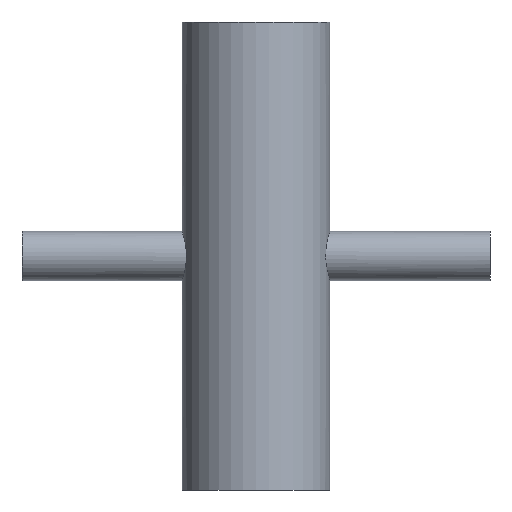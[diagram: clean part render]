
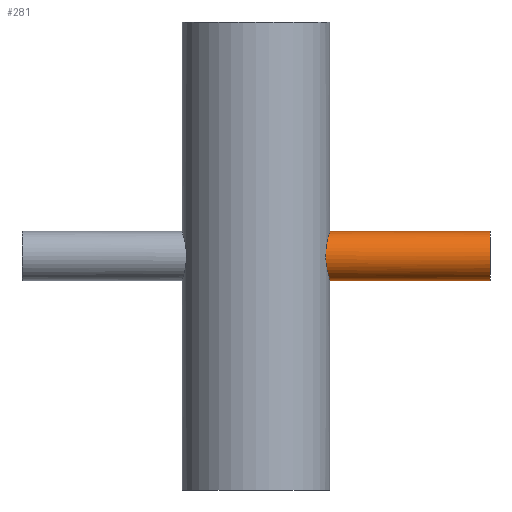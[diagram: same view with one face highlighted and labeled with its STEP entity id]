
A CAD part, front view. The second image highlights one B-rep face of the part: STEP entity #281.
In plain terms, the highlighted cylindrical face has radius 6.35 mm (diameter 12.7 mm), a partial arc.
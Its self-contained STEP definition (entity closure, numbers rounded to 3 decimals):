
#2 = VERTEX_POINT ( 'NONE', #43 ) ;
#18 = CARTESIAN_POINT ( 'NONE',  ( -60.325, 0., -6.35 ) ) ;
#20 = CARTESIAN_POINT ( 'NONE',  ( 19.05, 0., 6.35 ) ) ;
#26 = AXIS2_PLACEMENT_3D ( 'NONE', #254, #375, #145 ) ;
#42 = CARTESIAN_POINT ( 'NONE',  ( 18.018, -6.185, -1.454 ) ) ;
#43 = CARTESIAN_POINT ( 'NONE',  ( 19.05, 0., -6.35 ) ) ;
#52 = CARTESIAN_POINT ( 'NONE',  ( 18.177, -5.702, -2.824 ) ) ;
#57 = CARTESIAN_POINT ( 'NONE',  ( 60.325, 0., -6.35 ) ) ;
#88 = CARTESIAN_POINT ( 'NONE',  ( 18.979, -1.651, -6.135 ) ) ;
#90 = CARTESIAN_POINT ( 'NONE',  ( 18.981, -1.666, 6.142 ) ) ;
#97 = ORIENTED_EDGE ( 'NONE', *, *, #422, .T. ) ;
#101 = CARTESIAN_POINT ( 'NONE',  ( 18.032, -6.146, 1.651 ) ) ;
#106 = VERTEX_POINT ( 'NONE', #250 ) ;
#145 = DIRECTION ( 'NONE',  ( 0., 0., -1. ) ) ;
#154 = CARTESIAN_POINT ( 'NONE',  ( 18.1, -5.941, -2.253 ) ) ;
#157 = CARTESIAN_POINT ( 'NONE',  ( 18.238, -5.507, -3.189 ) ) ;
#164 = CARTESIAN_POINT ( 'NONE',  ( 18.177, -5.704, 2.821 ) ) ;
#171 = CARTESIAN_POINT ( 'NONE',  ( -60.325, 0., 6.35 ) ) ;
#173 = CARTESIAN_POINT ( 'NONE',  ( 18.371, -5.041, 3.867 ) ) ;
#187 = CYLINDRICAL_SURFACE ( 'NONE', #714, 6.35 ) ;
#195 = CARTESIAN_POINT ( 'NONE',  ( 17.975, -6.308, -0.838 ) ) ;
#197 = FACE_OUTER_BOUND ( 'NONE', #324, .T. ) ;
#201 = LINE ( 'NONE', #18, #575 ) ;
#203 = CARTESIAN_POINT ( 'NONE',  ( 18.843, -2.827, 5.701 ) ) ;
#206 = CARTESIAN_POINT ( 'NONE',  ( 60.325, 0., 6.35 ) ) ;
#214 = CARTESIAN_POINT ( 'NONE',  ( 18.036, -6.133, -1.659 ) ) ;
#218 = CARTESIAN_POINT ( 'NONE',  ( 18.443, -4.781, -4.199 ) ) ;
#230 = CARTESIAN_POINT ( 'NONE',  ( 18.337, -5.164, 3.701 ) ) ;
#232 = CARTESIAN_POINT ( 'NONE',  ( 18.477, -4.638, 4.342 ) ) ;
#239 = EDGE_CURVE ( 'NONE', #106, #323, #248, .T. ) ;
#248 = LINE ( 'NONE', #171, #406 ) ;
#250 = CARTESIAN_POINT ( 'NONE',  ( 19.05, 0., 6.35 ) ) ;
#254 = CARTESIAN_POINT ( 'NONE',  ( 60.325, 0., 0. ) ) ;
#275 = CARTESIAN_POINT ( 'NONE',  ( 18.238, -5.507, 3.188 ) ) ;
#281 = ADVANCED_FACE ( 'NONE', ( #197 ), #187, .T. ) ;
#284 = DIRECTION ( 'NONE',  ( 1., 0., 0. ) ) ;
#291 = CARTESIAN_POINT ( 'NONE',  ( -60.325, 0., 0. ) ) ;
#304 = B_SPLINE_CURVE_WITH_KNOTS ( 'NONE', 3,
 ( #460, #553, #728, #740, #88, #319, #723, #731, #779, #540, #799, #604, #801, #218, #688, #157, #52, #154, #344, #214, #42, #195, #351, #812, #412, #101, #606, #164, #275, #230, #173, #408, #232, #685, #808, #717, #203, #465, #90, #536, #394, #20 ),
 .UNSPECIFIED., .F., .F.,
 ( 4, 2, 2, 2, 2, 2, 2, 2, 2, 2, 2, 2, 2, 2, 2, 2, 2, 2, 2, 2, 4 ),
 ( 0.02, 0.021, 0.022, 0.022, 0.024, 0.024, 0.025, 0.026, 0.027, 0.028, 0.029, 0.03, 0.031, 0.032, 0.034, 0.034, 0.035, 0.036, 0.037, 0.039, 0.04 ),
 .UNSPECIFIED. ) ;
#319 = CARTESIAN_POINT ( 'NONE',  ( 18.94, -2.052, -6.013 ) ) ;
#323 = VERTEX_POINT ( 'NONE', #206 ) ;
#324 = EDGE_LOOP ( 'NONE', ( #744, #734, #97, #626 ) ) ;
#344 = CARTESIAN_POINT ( 'NONE',  ( 18.077, -6.011, -2.058 ) ) ;
#351 = CARTESIAN_POINT ( 'NONE',  ( 17.961, -6.35, -0.424 ) ) ;
#359 = EDGE_CURVE ( 'NONE', #2, #106, #304, .T. ) ;
#375 = DIRECTION ( 'NONE',  ( -1., 0., 0. ) ) ;
#392 = VERTEX_POINT ( 'NONE', #57 ) ;
#394 = CARTESIAN_POINT ( 'NONE',  ( 19.05, -0.423, 6.35 ) ) ;
#406 = VECTOR ( 'NONE', #770, 1000. ) ;
#408 = CARTESIAN_POINT ( 'NONE',  ( 18.441, -4.779, 4.187 ) ) ;
#412 = CARTESIAN_POINT ( 'NONE',  ( 17.975, -6.309, 0.835 ) ) ;
#416 = DIRECTION ( 'NONE',  ( 1., 0., 0. ) ) ;
#422 = EDGE_CURVE ( 'NONE', #2, #392, #201, .T. ) ;
#460 = CARTESIAN_POINT ( 'NONE',  ( 19.05, 0., -6.35 ) ) ;
#465 = CARTESIAN_POINT ( 'NONE',  ( 18.942, -2.063, 6.02 ) ) ;
#488 = EDGE_CURVE ( 'NONE', #392, #323, #594, .T. ) ;
#536 = CARTESIAN_POINT ( 'NONE',  ( 19.036, -0.845, 6.307 ) ) ;
#540 = CARTESIAN_POINT ( 'NONE',  ( 18.687, -3.705, -5.161 ) ) ;
#553 = CARTESIAN_POINT ( 'NONE',  ( 19.05, -0.423, -6.35 ) ) ;
#575 = VECTOR ( 'NONE', #416, 1000. ) ;
#594 = CIRCLE ( 'NONE', #26, 6.35 ) ;
#604 = CARTESIAN_POINT ( 'NONE',  ( 18.584, -4.193, -4.773 ) ) ;
#606 = CARTESIAN_POINT ( 'NONE',  ( 18.073, -6.025, 2.049 ) ) ;
#626 = ORIENTED_EDGE ( 'NONE', *, *, #488, .T. ) ;
#657 = DIRECTION ( 'NONE',  ( 0., 0., -1. ) ) ;
#685 = CARTESIAN_POINT ( 'NONE',  ( 18.584, -4.2, 4.78 ) ) ;
#688 = CARTESIAN_POINT ( 'NONE',  ( 18.372, -5.043, -3.881 ) ) ;
#714 = AXIS2_PLACEMENT_3D ( 'NONE', #291, #284, #657 ) ;
#717 = CARTESIAN_POINT ( 'NONE',  ( 18.783, -3.198, 5.501 ) ) ;
#723 = CARTESIAN_POINT ( 'NONE',  ( 18.918, -2.25, -5.942 ) ) ;
#728 = CARTESIAN_POINT ( 'NONE',  ( 19.036, -0.838, -6.308 ) ) ;
#731 = CARTESIAN_POINT ( 'NONE',  ( 18.843, -2.826, -5.702 ) ) ;
#734 = ORIENTED_EDGE ( 'NONE', *, *, #359, .F. ) ;
#740 = CARTESIAN_POINT ( 'NONE',  ( 18.996, -1.449, -6.186 ) ) ;
#744 = ORIENTED_EDGE ( 'NONE', *, *, #239, .F. ) ;
#770 = DIRECTION ( 'NONE',  ( 1., 0., 0. ) ) ;
#779 = CARTESIAN_POINT ( 'NONE',  ( 18.784, -3.189, -5.507 ) ) ;
#799 = CARTESIAN_POINT ( 'NONE',  ( 18.653, -3.873, -5.036 ) ) ;
#801 = CARTESIAN_POINT ( 'NONE',  ( 18.548, -4.346, -4.635 ) ) ;
#808 = CARTESIAN_POINT ( 'NONE',  ( 18.653, -3.883, 5.041 ) ) ;
#812 = CARTESIAN_POINT ( 'NONE',  ( 17.96, -6.35, 0.41 ) ) ;
